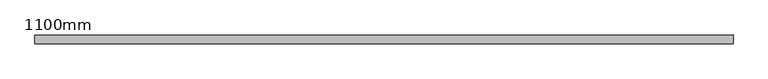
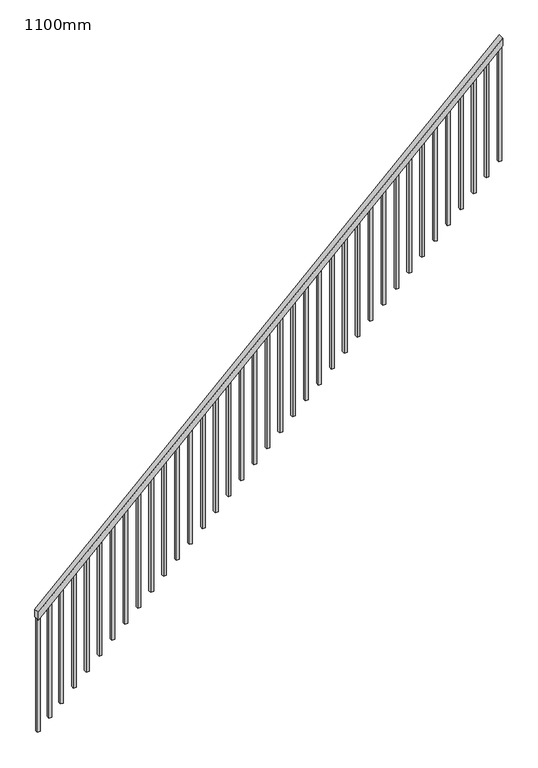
"""IFC4 building model written with IfcOpenShell, lengths in millimetres: railing geometry, 1100mm."""

from ifc_helpers import new_model, si_unit, frame, origin, place, context, project, spatial, polyline, outline, extrude, source, transform, mapped, element, save


def railing_1100mm_788f7067(model_context):
    return source(origin(), model_context, "Body", "SweptSolid", [
        extrude(outline(polyline([(1310.5263158, -267.586215), (1241.3213674, -267.586215), (5030.7950516, 3692.413785), (5100.0, 3692.413785), (1310.5263158, -267.586215)])), frame((0.0, 2760.9076201, 0.0), z_axis=(0.0, 1.0, 0.0), x_axis=(0.0, 0.0, 1.0)), (0.0, 0.0, 1.0), 50.0),
        extrude(outline(polyline([(3988.0382775, 3667.413785), (3988.0382775, 3692.413785), (5030.7950516, 3692.413785), (5006.8716067, 3667.413785), (3988.0382775, 3667.413785)])), frame((0.0, 2773.4076201, 0.0), z_axis=(0.0, 1.0, 0.0), x_axis=(0.0, 0.0, 1.0)), (0.0, 0.0, 1.0), 25.0),
        extrude(outline(polyline([(3882.7751196, 3557.413785), (3882.7751196, 3582.413785), (4925.5318937, 3582.413785), (4901.6084488, 3557.413785), (3882.7751196, 3557.413785)])), frame((0.0, 2773.4076201, 0.0), z_axis=(0.0, 1.0, 0.0), x_axis=(0.0, 0.0, 1.0)), (0.0, 0.0, 1.0), 25.0),
        extrude(outline(polyline([(3777.5119617, 3447.413785), (3777.5119617, 3472.413785), (4820.2687358, 3472.413785), (4796.3452909, 3447.413785), (3777.5119617, 3447.413785)])), frame((0.0, 2773.4076201, 0.0), z_axis=(0.0, 1.0, 0.0), x_axis=(0.0, 0.0, 1.0)), (0.0, 0.0, 1.0), 25.0),
        extrude(outline(polyline([(3672.2488038, 3337.413785), (3672.2488038, 3362.413785), (4715.005578, 3362.413785), (4691.082133, 3337.413785), (3672.2488038, 3337.413785)])), frame((0.0, 2773.4076201, 0.0), z_axis=(0.0, 1.0, 0.0), x_axis=(0.0, 0.0, 1.0)), (0.0, 0.0, 1.0), 25.0),
        extrude(outline(polyline([(3566.9856459, 3227.413785), (3566.9856459, 3252.413785), (4609.7424201, 3252.413785), (4585.8189751, 3227.413785), (3566.9856459, 3227.413785)])), frame((0.0, 2773.4076201, 0.0), z_axis=(0.0, 1.0, 0.0), x_axis=(0.0, 0.0, 1.0)), (0.0, 0.0, 1.0), 25.0),
        extrude(outline(polyline([(3461.722488, 3117.413785), (3461.722488, 3142.413785), (4504.4792622, 3142.413785), (4480.5558172, 3117.413785), (3461.722488, 3117.413785)])), frame((0.0, 2773.4076201, 0.0), z_axis=(0.0, 1.0, 0.0), x_axis=(0.0, 0.0, 1.0)), (0.0, 0.0, 1.0), 25.0),
        extrude(outline(polyline([(3356.4593301, 3007.413785), (3356.4593301, 3032.413785), (4399.2161043, 3032.413785), (4375.2926593, 3007.413785), (3356.4593301, 3007.413785)])), frame((0.0, 2773.4076201, 0.0), z_axis=(0.0, 1.0, 0.0), x_axis=(0.0, 0.0, 1.0)), (0.0, 0.0, 1.0), 25.0),
        extrude(outline(polyline([(3251.1961722, 2897.413785), (3251.1961722, 2922.413785), (4293.9529464, 2922.413785), (4270.0295014, 2897.413785), (3251.1961722, 2897.413785)])), frame((0.0, 2773.4076201, 0.0), z_axis=(0.0, 1.0, 0.0), x_axis=(0.0, 0.0, 1.0)), (0.0, 0.0, 1.0), 25.0),
        extrude(outline(polyline([(3145.9330144, 2787.413785), (3145.9330144, 2812.413785), (4188.6897885, 2812.413785), (4164.7663435, 2787.413785), (3145.9330144, 2787.413785)])), frame((0.0, 2773.4076201, 0.0), z_axis=(0.0, 1.0, 0.0), x_axis=(0.0, 0.0, 1.0)), (0.0, 0.0, 1.0), 25.0),
        extrude(outline(polyline([(3040.6698565, 2677.413785), (3040.6698565, 2702.413785), (4083.4266306, 2702.413785), (4059.5031856, 2677.413785), (3040.6698565, 2677.413785)])), frame((0.0, 2773.4076201, 0.0), z_axis=(0.0, 1.0, 0.0), x_axis=(0.0, 0.0, 1.0)), (0.0, 0.0, 1.0), 25.0),
        extrude(outline(polyline([(2935.4066986, 2567.413785), (2935.4066986, 2592.413785), (3978.1634727, 2592.413785), (3954.2400277, 2567.413785), (2935.4066986, 2567.413785)])), frame((0.0, 2773.4076201, 0.0), z_axis=(0.0, 1.0, 0.0), x_axis=(0.0, 0.0, 1.0)), (0.0, 0.0, 1.0), 25.0),
        extrude(outline(polyline([(2830.1435407, 2457.413785), (2830.1435407, 2482.413785), (3872.9003148, 2482.413785), (3848.9768698, 2457.413785), (2830.1435407, 2457.413785)])), frame((0.0, 2773.4076201, 0.0), z_axis=(0.0, 1.0, 0.0), x_axis=(0.0, 0.0, 1.0)), (0.0, 0.0, 1.0), 25.0),
        extrude(outline(polyline([(2724.8803828, 2347.413785), (2724.8803828, 2372.413785), (3767.6371569, 2372.413785), (3743.7137119, 2347.413785), (2724.8803828, 2347.413785)])), frame((0.0, 2773.4076201, 0.0), z_axis=(0.0, 1.0, 0.0), x_axis=(0.0, 0.0, 1.0)), (0.0, 0.0, 1.0), 25.0),
        extrude(outline(polyline([(2619.6172249, 2237.413785), (2619.6172249, 2262.413785), (3662.373999, 2262.413785), (3638.450554, 2237.413785), (2619.6172249, 2237.413785)])), frame((0.0, 2773.4076201, 0.0), z_axis=(0.0, 1.0, 0.0), x_axis=(0.0, 0.0, 1.0)), (0.0, 0.0, 1.0), 25.0),
        extrude(outline(polyline([(2514.354067, 2127.413785), (2514.354067, 2152.413785), (3557.1108411, 2152.413785), (3533.1873961, 2127.413785), (2514.354067, 2127.413785)])), frame((0.0, 2773.4076201, 0.0), z_axis=(0.0, 1.0, 0.0), x_axis=(0.0, 0.0, 1.0)), (0.0, 0.0, 1.0), 25.0),
        extrude(outline(polyline([(2409.0909091, 2017.413785), (2409.0909091, 2042.413785), (3451.8476832, 2042.413785), (3427.9242382, 2017.413785), (2409.0909091, 2017.413785)])), frame((0.0, 2773.4076201, 0.0), z_axis=(0.0, 1.0, 0.0), x_axis=(0.0, 0.0, 1.0)), (0.0, 0.0, 1.0), 25.0),
        extrude(outline(polyline([(2303.8277512, 1907.413785), (2303.8277512, 1932.413785), (3346.5845253, 1932.413785), (3322.6610803, 1907.413785), (2303.8277512, 1907.413785)])), frame((0.0, 2773.4076201, 0.0), z_axis=(0.0, 1.0, 0.0), x_axis=(0.0, 0.0, 1.0)), (0.0, 0.0, 1.0), 25.0),
        extrude(outline(polyline([(2198.5645933, 1797.413785), (2198.5645933, 1822.413785), (3241.3213674, 1822.413785), (3217.3979224, 1797.413785), (2198.5645933, 1797.413785)])), frame((0.0, 2773.4076201, 0.0), z_axis=(0.0, 1.0, 0.0), x_axis=(0.0, 0.0, 1.0)), (0.0, 0.0, 1.0), 25.0),
        extrude(outline(polyline([(2093.3014354, 1687.413785), (2093.3014354, 1712.413785), (3136.0582095, 1712.413785), (3112.1347646, 1687.413785), (2093.3014354, 1687.413785)])), frame((0.0, 2773.4076201, 0.0), z_axis=(0.0, 1.0, 0.0), x_axis=(0.0, 0.0, 1.0)), (0.0, 0.0, 1.0), 25.0),
        extrude(outline(polyline([(1988.0382775, 1577.413785), (1988.0382775, 1602.413785), (3030.7950516, 1602.413785), (3006.8716067, 1577.413785), (1988.0382775, 1577.413785)])), frame((0.0, 2773.4076201, 0.0), z_axis=(0.0, 1.0, 0.0), x_axis=(0.0, 0.0, 1.0)), (0.0, 0.0, 1.0), 25.0),
        extrude(outline(polyline([(1882.7751196, 1467.413785), (1882.7751196, 1492.413785), (2925.5318937, 1492.413785), (2901.6084488, 1467.413785), (1882.7751196, 1467.413785)])), frame((0.0, 2773.4076201, 0.0), z_axis=(0.0, 1.0, 0.0), x_axis=(0.0, 0.0, 1.0)), (0.0, 0.0, 1.0), 25.0),
        extrude(outline(polyline([(1777.5119617, 1357.413785), (1777.5119617, 1382.413785), (2820.2687358, 1382.413785), (2796.3452909, 1357.413785), (1777.5119617, 1357.413785)])), frame((0.0, 2773.4076201, 0.0), z_axis=(0.0, 1.0, 0.0), x_axis=(0.0, 0.0, 1.0)), (0.0, 0.0, 1.0), 25.0),
        extrude(outline(polyline([(1672.2488038, 1247.413785), (1672.2488038, 1272.413785), (2715.005578, 1272.413785), (2691.082133, 1247.413785), (1672.2488038, 1247.413785)])), frame((0.0, 2773.4076201, 0.0), z_axis=(0.0, 1.0, 0.0), x_axis=(0.0, 0.0, 1.0)), (0.0, 0.0, 1.0), 25.0),
        extrude(outline(polyline([(1566.9856459, 1137.413785), (1566.9856459, 1162.413785), (2609.7424201, 1162.413785), (2585.8189751, 1137.413785), (1566.9856459, 1137.413785)])), frame((0.0, 2773.4076201, 0.0), z_axis=(0.0, 1.0, 0.0), x_axis=(0.0, 0.0, 1.0)), (0.0, 0.0, 1.0), 25.0),
        extrude(outline(polyline([(1461.722488, 1027.413785), (1461.722488, 1052.413785), (2504.4792622, 1052.413785), (2480.5558172, 1027.413785), (1461.722488, 1027.413785)])), frame((0.0, 2773.4076201, 0.0), z_axis=(0.0, 1.0, 0.0), x_axis=(0.0, 0.0, 1.0)), (0.0, 0.0, 1.0), 25.0),
        extrude(outline(polyline([(1356.4593301, 917.413785), (1356.4593301, 942.413785), (2399.2161043, 942.413785), (2375.2926593, 917.413785), (1356.4593301, 917.413785)])), frame((0.0, 2773.4076201, 0.0), z_axis=(0.0, 1.0, 0.0), x_axis=(0.0, 0.0, 1.0)), (0.0, 0.0, 1.0), 25.0),
        extrude(outline(polyline([(1251.1961722, 807.413785), (1251.1961722, 832.413785), (2293.9529464, 832.413785), (2270.0295014, 807.413785), (1251.1961722, 807.413785)])), frame((0.0, 2773.4076201, 0.0), z_axis=(0.0, 1.0, 0.0), x_axis=(0.0, 0.0, 1.0)), (0.0, 0.0, 1.0), 25.0),
        extrude(outline(polyline([(1145.9330144, 697.413785), (1145.9330144, 722.413785), (2188.6897885, 722.413785), (2164.7663435, 697.413785), (1145.9330144, 697.413785)])), frame((0.0, 2773.4076201, 0.0), z_axis=(0.0, 1.0, 0.0), x_axis=(0.0, 0.0, 1.0)), (0.0, 0.0, 1.0), 25.0),
        extrude(outline(polyline([(1040.6698565, 587.413785), (1040.6698565, 612.413785), (2083.4266306, 612.413785), (2059.5031856, 587.413785), (1040.6698565, 587.413785)])), frame((0.0, 2773.4076201, 0.0), z_axis=(0.0, 1.0, 0.0), x_axis=(0.0, 0.0, 1.0)), (0.0, 0.0, 1.0), 25.0),
        extrude(outline(polyline([(935.4066986, 477.413785), (935.4066986, 502.413785), (1978.1634727, 502.413785), (1954.2400277, 477.413785), (935.4066986, 477.413785)])), frame((0.0, 2773.4076201, 0.0), z_axis=(0.0, 1.0, 0.0), x_axis=(0.0, 0.0, 1.0)), (0.0, 0.0, 1.0), 25.0),
        extrude(outline(polyline([(830.1435407, 367.413785), (830.1435407, 392.413785), (1872.9003148, 392.413785), (1848.9768698, 367.413785), (830.1435407, 367.413785)])), frame((0.0, 2773.4076201, 0.0), z_axis=(0.0, 1.0, 0.0), x_axis=(0.0, 0.0, 1.0)), (0.0, 0.0, 1.0), 25.0),
        extrude(outline(polyline([(724.8803828, 257.413785), (724.8803828, 282.413785), (1767.6371569, 282.413785), (1743.7137119, 257.413785), (724.8803828, 257.413785)])), frame((0.0, 2773.4076201, 0.0), z_axis=(0.0, 1.0, 0.0), x_axis=(0.0, 0.0, 1.0)), (0.0, 0.0, 1.0), 25.0),
        extrude(outline(polyline([(619.6172249, 147.413785), (619.6172249, 172.413785), (1662.373999, 172.413785), (1638.450554, 147.413785), (619.6172249, 147.413785)])), frame((0.0, 2773.4076201, 0.0), z_axis=(0.0, 1.0, 0.0), x_axis=(0.0, 0.0, 1.0)), (0.0, 0.0, 1.0), 25.0),
        extrude(outline(polyline([(514.354067, 37.413785), (514.354067, 62.413785), (1557.1108411, 62.413785), (1533.1873961, 37.413785), (514.354067, 37.413785)])), frame((0.0, 2773.4076201, 0.0), z_axis=(0.0, 1.0, 0.0), x_axis=(0.0, 0.0, 1.0)), (0.0, 0.0, 1.0), 25.0),
        extrude(outline(polyline([(409.0909091, -72.586215), (409.0909091, -47.586215), (1451.8476832, -47.586215), (1427.9242382, -72.586215), (409.0909091, -72.586215)])), frame((0.0, 2773.4076201, 0.0), z_axis=(0.0, 1.0, 0.0), x_axis=(0.0, 0.0, 1.0)), (0.0, 0.0, 1.0), 25.0),
        extrude(outline(polyline([(315.7894737, -170.086215), (315.7894737, -145.086215), (1358.5462478, -145.086215), (1334.6228028, -170.086215), (315.7894737, -170.086215)])), frame((0.0, 2773.4076201, 0.0), z_axis=(0.0, 1.0, 0.0), x_axis=(0.0, 0.0, 1.0)), (0.0, 0.0, 1.0), 25.0),
        extrude(outline(polyline([(222.4880383, -267.586215), (222.4880383, -242.586215), (1265.2448124, -242.586215), (1241.3213674, -267.586215), (222.4880383, -267.586215)])), frame((0.0, 2773.4076201, 0.0), z_axis=(0.0, 1.0, 0.0), x_axis=(0.0, 0.0, 1.0)), (0.0, 0.0, 1.0), 25.0),
    ])


if __name__ == "__main__":
    model = new_model("IFC4")
    model_context = context("Model", 3, world=origin())
    ifc_project = project(units=[si_unit("LENGTHUNIT", "METRE", prefix="MILLI")], contexts=[model_context])
    site = spatial("IfcSite", under=ifc_project)
    building = spatial("IfcBuilding", under=site)
    placement = place(None, origin())
    railing_1100mm_shape = railing_1100mm_788f7067(model_context)
    element("IfcRailing", 1, ObjectType="1100mm", at=placement, inside=building, context=model_context, shape_type="MappedRepresentation", body=[
        mapped(railing_1100mm_shape, transform((0.0, 0.0, 0.0), x_axis=(1.0, 0.0, 0.0), y_axis=(0.0, 1.0, 0.0), z_axis=(0.0, 0.0, 1.0))),
    ])
    save(model, "model.ifc")
